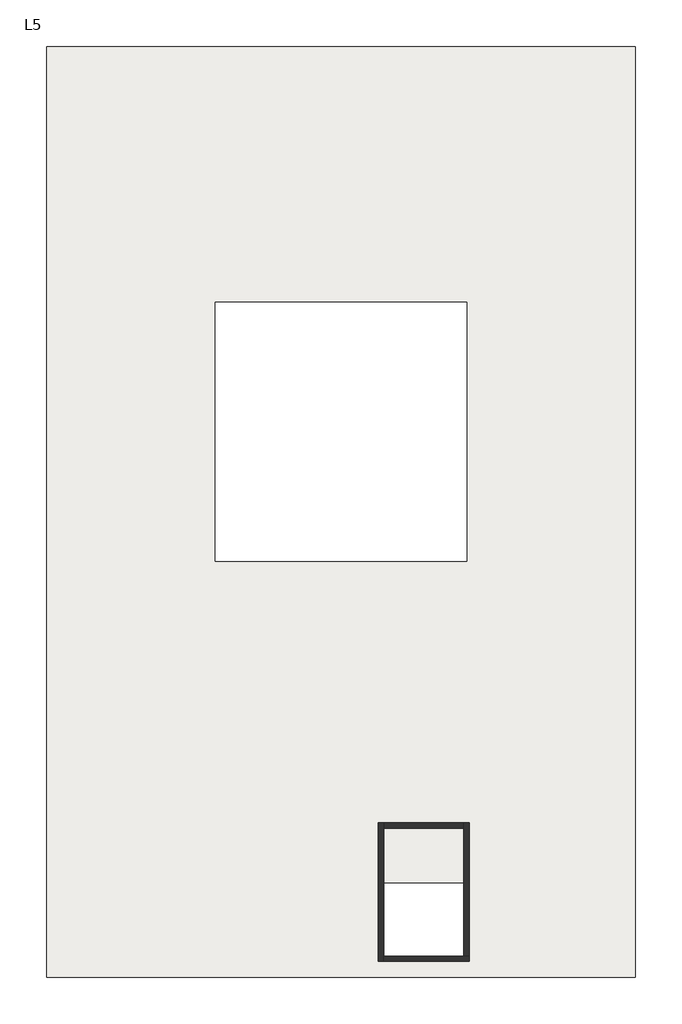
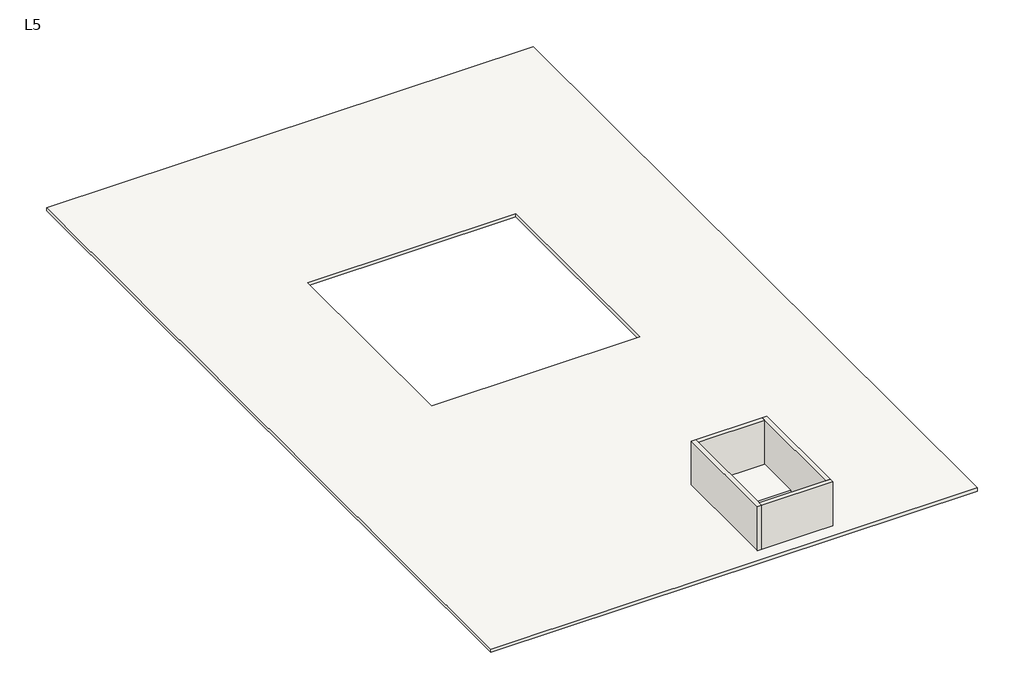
# One storey: 4 walls, 1 roof.
"""IFC4 building model written with IfcOpenShell, lengths in millimetres."""

from ifc_helpers import new_model, si_unit, frame, origin, place, context, project, spatial, polyline, outline, extrude, faceted_brep, element, save

model = new_model("IFC4")

# Units and contexts
model_context = context("Model", 3, world=origin())
ifc_project = project(units=[si_unit("LENGTHUNIT", "METRE", prefix="MILLI")], contexts=[model_context])

# Site, building, storey
site = spatial("IfcSite", under=ifc_project)
building = spatial("IfcBuilding", under=site)
storey = spatial("IfcBuildingStorey", under=building, Name="L5", Elevation=8788.4)

# Roof
placement = place(None, origin())
element("IfcRoof", 1, ObjectType="Generic - 6\"", at=placement, inside=storey, context=model_context, shape_type="SweptSolid", body=[
    extrude(outline(polyline([(3302.0, 660.4), (3302.0, 36017.1999999), (25654.0, 36017.1999999), (25654.0, 660.4), (3302.0, 660.4)]), holes=[polyline([(9702.8000088, 16459.1998844), (19253.2, 16459.1998844), (19253.2, 26314.3998757), (9702.8000088, 26314.3998757), (9702.8000088, 16459.1998844)]), polyline([(16103.6060672, 4241.799468), (16103.6060672, 1473.1998473), (19151.6, 1473.1998473), (19151.6, 4241.799468), (16103.6060672, 4241.799468)])]), frame((0.0, 0.0, 8788.4), z_axis=(0.0, 0.0, 1.0), x_axis=(1.0, 0.0, 0.0)), (0.0, 0.0, 1.0), 152.4),
])

# Walls
element("IfcWall", 2, ObjectType="Project Wall", at=placement, inside=storey, context=model_context, shape_type="Brep", body=[
    faceted_brep([(15900.4060672, 6527.799468, 8788.4), (15900.4060672, 1269.9998473, 8788.4), (15900.4060672, 1269.9998473, 11074.4), (15900.4060672, 6527.799468, 11074.4), (16103.6060672, 6527.799468, 8788.4), (16103.6060672, 6527.799468, 11074.4), (16103.6060672, 6324.599468, 11074.4), (16103.6060672, 1473.1998473, 11074.4), (16103.6060672, 1269.9998473, 11074.4), (16103.6060672, 1269.9998473, 8788.4), (16103.6060672, 1473.1998473, 8788.4), (16103.6060672, 6324.599468, 8788.4)], [[[0, 1, 2, 3]], [[4, 5, 6, 7, 8, 9, 10, 11]], [[1, 0, 4, 11, 10, 9]], [[3, 2, 8, 7, 6, 5]], [[2, 1, 9, 8]], [[0, 3, 5, 4]]]),
])
element("IfcWall", 3, ObjectType="Project Wall", at=placement, inside=storey, context=model_context, shape_type="Brep", body=[
    faceted_brep([(16103.6060672, 1269.9998473, 8788.4), (19354.8, 1269.9998473, 8788.4), (19354.8, 1269.9998473, 11074.4), (16103.6060672, 1269.9998473, 11074.4), (16103.6060672, 1473.1998473, 8788.4), (16103.6060672, 1473.1998473, 11074.4), (19151.6, 1473.1998473, 11074.4), (19354.8, 1473.1998473, 11074.4), (19354.8, 1473.1998473, 8788.4), (19151.6, 1473.1998473, 8788.4)], [[[0, 1, 2, 3]], [[4, 5, 6, 7, 8, 9]], [[1, 0, 4, 9, 8]], [[3, 2, 7, 6, 5]], [[0, 3, 5, 4]], [[2, 1, 8, 7]]]),
])
element("IfcWall", 4, ObjectType="Project Wall", at=placement, inside=storey, context=model_context, shape_type="Brep", body=[
    faceted_brep([(19354.8, 1473.1998473, 8788.4), (19354.8, 6527.799468, 8788.4), (19354.8, 6527.799468, 11074.4), (19354.8, 1473.1998473, 11074.4), (19151.6, 1473.1998473, 8788.4), (19151.6, 1473.1998473, 11074.4), (19151.6, 6324.599468, 11074.4), (19151.6, 6527.799468, 11074.4), (19151.6, 6527.799468, 8788.4), (19151.6, 6324.599468, 8788.4)], [[[0, 1, 2, 3]], [[4, 5, 6, 7, 8, 9]], [[1, 0, 4, 9, 8]], [[3, 2, 7, 6, 5]], [[0, 3, 5, 4]], [[2, 1, 8, 7]]]),
])
element("IfcWall", 5, ObjectType="Project Wall", at=placement, inside=storey, context=model_context, shape_type="SweptSolid", body=[
    extrude(outline(polyline([(16103.6060672, 6527.799468), (19151.6, 6527.799468), (19151.6, 6324.599468), (16103.6060672, 6324.599468), (16103.6060672, 6527.799468)])), frame((0.0, 0.0, 8788.4), z_axis=(0.0, 0.0, 1.0), x_axis=(1.0, 0.0, 0.0)), (0.0, 0.0, 1.0), 2286.0),
])

save(model, "model.ifc")
